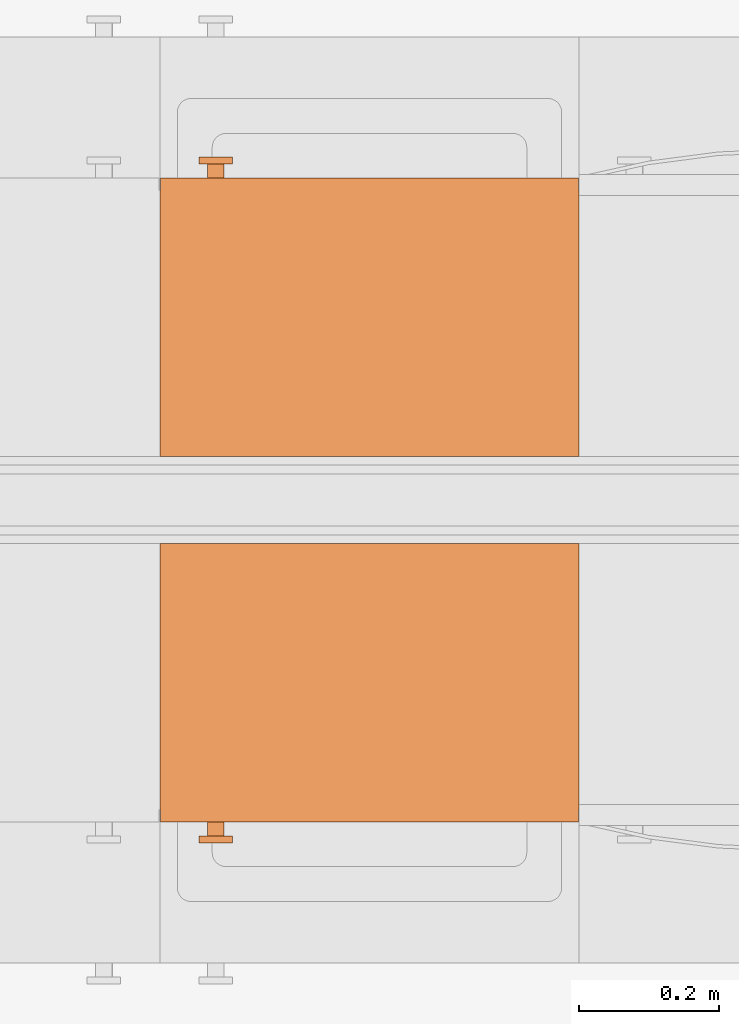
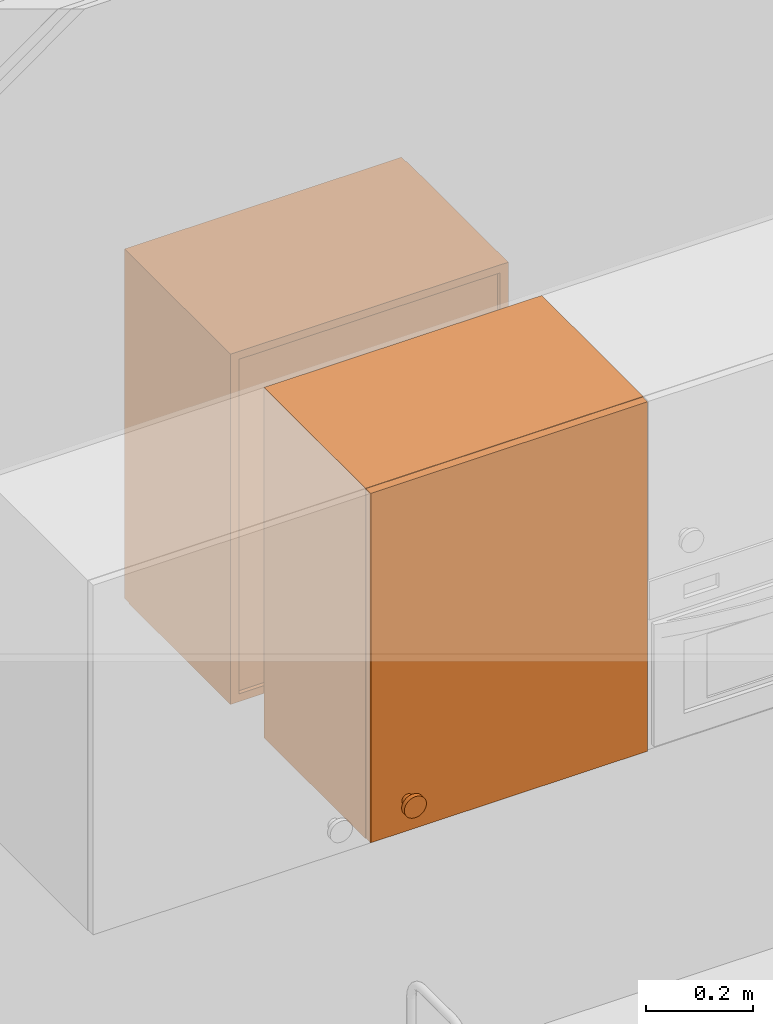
# One storey, part 129 of 165: 2 proxies.
"""IFC2X3 building model written with IfcOpenShell, lengths in millimetres."""

from ifc_helpers import new_model, entity, si_unit, converted_unit, derived_unit, money_unit, direction, frame, origin_with_axes, place, context, subcontext, project, spatial, faceted_brep, source, transform, mapped, type_object, type_shapes, element, save


model = new_model("IFC2X3")

# Units and contexts
model_context = context("Model", 3, precision=0.01, world=origin_with_axes(), true_north=direction((0.0, 1.0)))
body_context = subcontext(model_context, "Body", "Model", "MODEL_VIEW")
ifc_project = project(units=[si_unit("LENGTHUNIT", "METRE", prefix="MILLI"), si_unit("AREAUNIT", "SQUARE_METRE"), si_unit("VOLUMEUNIT", "CUBIC_METRE"), converted_unit("PLANEANGLEUNIT", "DEGREE", entity("IfcPlaneAngleMeasure", 0.0174532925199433), si_unit("PLANEANGLEUNIT", "RADIAN"), dimensions=[0, 0, 0, 0, 0, 0, 0]), money_unit("EUR"), converted_unit("TIMEUNIT", "Year", entity("IfcTimeMeasure", 31556926.0), si_unit("TIMEUNIT", "SECOND"), dimensions=[0, 0, 1, 0, 0, 0, 0]), si_unit("MASSUNIT", "GRAM", prefix="KILO"), si_unit("THERMODYNAMICTEMPERATUREUNIT", "DEGREE_CELSIUS"), si_unit("LUMINOUSINTENSITYUNIT", "LUMEN"), si_unit("ENERGYUNIT", "JOULE", prefix="MEGA"), derived_unit("THERMALCONDUCTANCEUNIT", [(si_unit("POWERUNIT", "WATT"), 1), (si_unit("LENGTHUNIT", "METRE"), -1), (si_unit("THERMODYNAMICTEMPERATUREUNIT", "KELVIN"), -1)]), derived_unit("SPECIFICHEATCAPACITYUNIT", [(si_unit("ENERGYUNIT", "JOULE"), 1), (si_unit("MASSUNIT", "GRAM", prefix="KILO"), -1), (si_unit("THERMODYNAMICTEMPERATUREUNIT", "KELVIN"), -1)]), derived_unit("MASSDENSITYUNIT", [(si_unit("MASSUNIT", "GRAM", prefix="KILO"), 1), (si_unit("VOLUMEUNIT", "CUBIC_METRE"), -1)])], contexts=[model_context])

# Site, building, storey
site_placement = place(None, origin_with_axes())
site = spatial("IfcSite", under=ifc_project, at=site_placement, Name="Site", CompositionType="ELEMENT")
building_placement = place(site_placement, origin_with_axes())
building = spatial("IfcBuilding", under=site, at=building_placement, Name="Naam gebouw", CompositionType="ELEMENT")
storey_placement = place(building_placement, origin_with_axes())
storey = spatial("IfcBuildingStorey", under=building, at=storey_placement, Name="Begane grond", CompositionType="ELEMENT", Elevation=0.0)

# Proxies
building_element_proxy_type = type_object("IfcBuildingElementProxyType", Name="Bovenkast recht 26", PredefinedType="NOTDEFINED")
shared_shape_1 = source(origin_with_axes(), body_context, "Body", "Brep", [
    faceted_brep([(-18.0, -380.0, 1891.0), (-18.0, -380.0, 1909.0), (-582.0, -380.0, 1909.0), (-582.0, -380.0, 1891.0), (-18.0, -18.0, 1891.0), (-18.0, -18.0, 1909.0), (-582.0, -18.0, 1909.0), (-582.0, -18.0, 1891.0)], [[[0, 1, 2, 3]], [[4, 5, 1, 0]], [[1, 5, 6, 2]], [[3, 2, 6, 7]], [[0, 3, 7, 4]], [[7, 6, 5, 4]]]),
    faceted_brep([(-531.8176930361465, -398.0, 1570.916221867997), (-532.0, -398.0, 1573.0), (-531.8176930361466, -398.0, 1575.083778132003), (-531.2763114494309, -398.0, 1577.104241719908), (-530.3923048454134, -398.0, 1579.0), (-529.1925333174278, -398.0, 1580.713451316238), (-527.7134513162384, -398.0, 1582.192533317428), (-526.0, -398.0, 1583.392304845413), (-524.104241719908, -398.0, 1584.276311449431), (-522.0837781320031, -398.0, 1584.817693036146), (-520.0, -398.0, 1585.0), (-517.9162218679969, -398.0, 1584.817693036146), (-515.8957582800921, -398.0, 1584.276311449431), (-514.0, -398.0, 1583.392304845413), (-512.2865486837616, -398.0, 1582.192533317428), (-510.8074666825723, -398.0, 1580.713451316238), (-509.6076951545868, -398.0, 1579.0), (-508.7236885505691, -398.0, 1577.104241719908), (-508.1823069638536, -398.0, 1575.083778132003), (-508.0, -398.0, 1573.0), (-508.1823069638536, -398.0, 1570.916221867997), (-508.7236885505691, -398.0, 1568.895758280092), (-509.6076951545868, -398.0, 1567.0), (-510.8074666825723, -398.0, 1565.286548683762), (-512.2865486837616, -398.0, 1563.807466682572), (-514.0, -398.0, 1562.607695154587), (-515.8957582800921, -398.0, 1561.723688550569), (-517.9162218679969, -398.0, 1561.182306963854), (-520.0, -398.0, 1561.0), (-522.0837781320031, -398.0, 1561.182306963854), (-524.104241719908, -398.0, 1561.723688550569), (-526.0, -398.0, 1562.607695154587), (-527.7134513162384, -398.0, 1563.807466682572), (-529.1925333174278, -398.0, 1565.286548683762), (-530.3923048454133, -398.0, 1567.0), (-531.2763114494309, -398.0, 1568.895758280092), (-531.8176930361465, -418.0000000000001, 1570.916221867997), (-532.0, -418.0000000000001, 1573.0), (-531.8176930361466, -418.0000000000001, 1575.083778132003), (-531.2763114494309, -418.0000000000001, 1577.104241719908), (-530.3923048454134, -418.0000000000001, 1579.0), (-529.1925333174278, -418.0000000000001, 1580.713451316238), (-527.7134513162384, -418.0000000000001, 1582.192533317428), (-526.0, -418.0000000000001, 1583.392304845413), (-524.104241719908, -418.0000000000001, 1584.276311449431), (-522.0837781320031, -418.0000000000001, 1584.817693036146), (-520.0, -418.0000000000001, 1585.0), (-517.9162218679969, -418.0000000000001, 1584.817693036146), (-515.8957582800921, -418.0000000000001, 1584.276311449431), (-514.0, -418.0000000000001, 1583.392304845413), (-512.2865486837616, -418.0000000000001, 1582.192533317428), (-510.8074666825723, -418.0000000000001, 1580.713451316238), (-509.6076951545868, -418.0000000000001, 1579.0), (-508.7236885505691, -418.0000000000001, 1577.104241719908), (-508.1823069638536, -418.0000000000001, 1575.083778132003), (-508.0, -418.0000000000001, 1573.0), (-508.1823069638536, -418.0000000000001, 1570.916221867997), (-508.7236885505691, -418.0000000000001, 1568.895758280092), (-509.6076951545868, -418.0000000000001, 1567.0), (-510.8074666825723, -418.0000000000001, 1565.286548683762), (-512.2865486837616, -418.0000000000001, 1563.807466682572), (-514.0, -418.0000000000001, 1562.607695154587), (-515.8957582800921, -418.0000000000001, 1561.723688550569), (-517.9162218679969, -418.0000000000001, 1561.182306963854), (-520.0, -418.0000000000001, 1561.0), (-522.0837781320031, -418.0000000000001, 1561.182306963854), (-524.104241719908, -418.0000000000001, 1561.723688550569), (-526.0, -418.0000000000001, 1562.607695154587), (-527.7134513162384, -418.0000000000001, 1563.807466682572), (-529.1925333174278, -418.0000000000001, 1565.286548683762), (-530.3923048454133, -418.0000000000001, 1567.0), (-531.2763114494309, -418.0000000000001, 1568.895758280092)], [[[0, 1, 2, 3, 4, 5, 6, 7, 8, 9, 10, 11, 12, 13, 14, 15, 16, 17, 18, 19, 20, 21, 22, 23, 24, 25, 26, 27, 28, 29, 30, 31, 32, 33, 34, 35]], [[0, 36, 37, 1]], [[1, 37, 38, 2]], [[2, 38, 39, 3]], [[3, 39, 40, 4]], [[4, 40, 41, 5]], [[5, 41, 42, 6]], [[6, 42, 43, 7]], [[7, 43, 44, 8]], [[8, 44, 45, 9]], [[9, 45, 46, 10]], [[10, 46, 47, 11]], [[11, 47, 48, 12]], [[12, 48, 49, 13]], [[13, 49, 50, 14]], [[14, 50, 51, 15]], [[15, 51, 52, 16]], [[16, 52, 53, 17]], [[17, 53, 54, 18]], [[18, 54, 55, 19]], [[19, 55, 56, 20]], [[20, 56, 57, 21]], [[21, 57, 58, 22]], [[22, 58, 59, 23]], [[23, 59, 60, 24]], [[24, 60, 61, 25]], [[25, 61, 62, 26]], [[26, 62, 63, 27]], [[27, 63, 64, 28]], [[28, 64, 65, 29]], [[29, 65, 66, 30]], [[30, 66, 67, 31]], [[31, 67, 68, 32]], [[32, 68, 69, 33]], [[33, 69, 70, 34]], [[34, 70, 71, 35]], [[35, 71, 36, 0]], [[36, 71, 70, 69, 68, 67, 66, 65, 64, 63, 62, 61, 60, 59, 58, 57, 56, 55, 54, 53, 52, 51, 50, 49, 48, 47, 46, 45, 44, 43, 42, 41, 40, 39, 38, 37]]]),
    faceted_brep([(-543.635386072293, -418.0000000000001, 1568.832443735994), (-544.0, -418.0000000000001, 1573.0), (-543.635386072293, -418.0000000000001, 1577.167556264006), (-542.5526228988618, -418.0000000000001, 1581.208483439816), (-540.7846096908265, -418.0000000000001, 1585.0), (-538.3850666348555, -418.0000000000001, 1588.426902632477), (-535.426902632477, -418.0000000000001, 1591.385066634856), (-532.0, -418.0000000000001, 1593.784609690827), (-528.2084834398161, -418.0000000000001, 1595.552622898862), (-524.1675562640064, -418.0000000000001, 1596.635386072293), (-520.0, -418.0000000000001, 1597.0), (-515.8324437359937, -418.0000000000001, 1596.635386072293), (-511.7915165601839, -418.0000000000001, 1595.552622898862), (-508.0, -418.0000000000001, 1593.784609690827), (-504.5730973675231, -418.0000000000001, 1591.385066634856), (-501.6149333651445, -418.0000000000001, 1588.426902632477), (-499.2153903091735, -418.0000000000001, 1585.0), (-497.4473771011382, -418.0000000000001, 1581.208483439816), (-496.364613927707, -418.0000000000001, 1577.167556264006), (-496.0000000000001, -418.0000000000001, 1573.0), (-496.364613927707, -418.0000000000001, 1568.832443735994), (-497.4473771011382, -418.0000000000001, 1564.791516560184), (-499.2153903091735, -418.0000000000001, 1561.0), (-501.6149333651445, -418.0000000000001, 1557.573097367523), (-504.5730973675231, -418.0000000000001, 1554.614933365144), (-508.0, -418.0000000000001, 1552.215390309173), (-511.7915165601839, -418.0000000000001, 1550.447377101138), (-515.8324437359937, -418.0000000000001, 1549.364613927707), (-520.0, -418.0000000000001, 1549.0), (-524.1675562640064, -418.0000000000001, 1549.364613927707), (-528.2084834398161, -418.0000000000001, 1550.447377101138), (-532.0, -418.0000000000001, 1552.215390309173), (-535.426902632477, -418.0000000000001, 1554.614933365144), (-538.3850666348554, -418.0000000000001, 1557.573097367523), (-540.7846096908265, -418.0000000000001, 1561.0), (-542.5526228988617, -418.0000000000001, 1564.791516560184), (-543.635386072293, -428.0000000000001, 1568.832443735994), (-544.0, -428.0000000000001, 1573.0), (-543.635386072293, -428.0000000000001, 1577.167556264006), (-542.5526228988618, -428.0000000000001, 1581.208483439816), (-540.7846096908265, -428.0000000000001, 1585.0), (-538.3850666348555, -428.0000000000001, 1588.426902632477), (-535.426902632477, -428.0000000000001, 1591.385066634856), (-532.0, -428.0000000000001, 1593.784609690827), (-528.2084834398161, -428.0000000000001, 1595.552622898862), (-524.1675562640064, -428.0000000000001, 1596.635386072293), (-520.0, -428.0000000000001, 1597.0), (-515.8324437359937, -428.0000000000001, 1596.635386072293), (-511.7915165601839, -428.0000000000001, 1595.552622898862), (-508.0, -428.0000000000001, 1593.784609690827), (-504.5730973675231, -428.0000000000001, 1591.385066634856), (-501.6149333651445, -428.0000000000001, 1588.426902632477), (-499.2153903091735, -428.0000000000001, 1585.0), (-497.4473771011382, -428.0000000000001, 1581.208483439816), (-496.364613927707, -428.0000000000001, 1577.167556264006), (-496.0000000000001, -428.0000000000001, 1573.0), (-496.364613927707, -428.0000000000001, 1568.832443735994), (-497.4473771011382, -428.0000000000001, 1564.791516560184), (-499.2153903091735, -428.0000000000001, 1561.0), (-501.6149333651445, -428.0000000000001, 1557.573097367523), (-504.5730973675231, -428.0000000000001, 1554.614933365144), (-508.0, -428.0000000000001, 1552.215390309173), (-511.7915165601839, -428.0000000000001, 1550.447377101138), (-515.8324437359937, -428.0000000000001, 1549.364613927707), (-520.0, -428.0000000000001, 1549.0), (-524.1675562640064, -428.0000000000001, 1549.364613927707), (-528.2084834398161, -428.0000000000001, 1550.447377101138), (-532.0, -428.0000000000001, 1552.215390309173), (-535.426902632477, -428.0000000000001, 1554.614933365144), (-538.3850666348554, -428.0000000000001, 1557.573097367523), (-540.7846096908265, -428.0000000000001, 1561.0), (-542.5526228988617, -428.0000000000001, 1564.791516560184)], [[[0, 1, 2, 3, 4, 5, 6, 7, 8, 9, 10, 11, 12, 13, 14, 15, 16, 17, 18, 19, 20, 21, 22, 23, 24, 25, 26, 27, 28, 29, 30, 31, 32, 33, 34, 35]], [[0, 36, 37, 1]], [[1, 37, 38, 2]], [[2, 38, 39, 3]], [[3, 39, 40, 4]], [[4, 40, 41, 5]], [[5, 41, 42, 6]], [[6, 42, 43, 7]], [[7, 43, 44, 8]], [[8, 44, 45, 9]], [[9, 45, 46, 10]], [[10, 46, 47, 11]], [[11, 47, 48, 12]], [[12, 48, 49, 13]], [[13, 49, 50, 14]], [[14, 50, 51, 15]], [[15, 51, 52, 16]], [[16, 52, 53, 17]], [[17, 53, 54, 18]], [[18, 54, 55, 19]], [[19, 55, 56, 20]], [[20, 56, 57, 21]], [[21, 57, 58, 22]], [[22, 58, 59, 23]], [[23, 59, 60, 24]], [[24, 60, 61, 25]], [[25, 61, 62, 26]], [[26, 62, 63, 27]], [[27, 63, 64, 28]], [[28, 64, 65, 29]], [[29, 65, 66, 30]], [[30, 66, 67, 31]], [[31, 67, 68, 32]], [[32, 68, 69, 33]], [[33, 69, 70, 34]], [[34, 70, 71, 35]], [[35, 71, 36, 0]], [[36, 71, 70, 69, 68, 67, 66, 65, 64, 63, 62, 61, 60, 59, 58, 57, 56, 55, 54, 53, 52, 51, 50, 49, 48, 47, 46, 45, 44, 43, 42, 41, 40, 39, 38, 37]]]),
    faceted_brep([(-1.0, -380.0, 1501.0), (-1.0, -398.0, 1501.0), (-599.0, -398.0, 1501.0), (-599.0, -380.0, 1501.0), (-1.0, -379.9999999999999, 2299.0), (-1.0, -397.9999999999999, 2299.0), (-599.0, -397.9999999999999, 2299.0), (-599.0, -379.9999999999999, 2299.0)], [[[0, 1, 2, 3]], [[4, 5, 1, 0]], [[1, 5, 6, 2]], [[3, 2, 6, 7]], [[0, 3, 7, 4]], [[7, 6, 5, 4]]]),
    faceted_brep([(-18.0, -380.0, 1500.0), (-18.0, -380.0, 1518.0), (-582.0, -380.0, 1518.0), (-582.0, -380.0, 1500.0), (-18.0, 0.0, 1500.0), (-18.0, 0.0, 1518.0), (-582.0, 0.0, 1518.0), (-582.0, 0.0, 1500.0)], [[[0, 1, 2, 3]], [[4, 5, 1, 0]], [[1, 5, 6, 2]], [[3, 2, 6, 7]], [[0, 3, 7, 4]], [[7, 6, 5, 4]]]),
    faceted_brep([(-18.0, -380.0, 2282.0), (-18.0, -380.0, 2300.0), (-582.0, -380.0, 2300.0), (-582.0, -380.0, 2282.0), (-18.0, 0.0, 2282.0), (-18.0, 0.0, 2300.0), (-582.0, 0.0, 2300.0), (-582.0, 0.0, 2282.0)], [[[0, 1, 2, 3]], [[4, 5, 1, 0]], [[1, 5, 6, 2]], [[3, 2, 6, 7]], [[0, 3, 7, 4]], [[7, 6, 5, 4]]]),
    faceted_brep([(0.0, 0.0, 1500.0), (0.0, 0.0, 2300.0), (0.0, -380.0, 2300.0), (0.0, -380.0, 1500.0), (-18.0, 0.0, 1500.0), (-18.0, 0.0, 2300.0), (-18.0, -380.0, 2300.0), (-18.0, -380.0, 1500.0)], [[[0, 1, 2, 3]], [[4, 5, 1, 0]], [[1, 5, 6, 2]], [[3, 2, 6, 7]], [[0, 3, 7, 4]], [[7, 6, 5, 4]]]),
    faceted_brep([(-600.0, -380.0, 1500.0), (-600.0, -380.0, 2300.0), (-600.0, 0.0, 2300.0), (-600.0, 0.0, 1500.0), (-582.0, -380.0, 1500.0), (-582.0, -380.0, 2300.0), (-582.0, 0.0, 2300.0), (-582.0, 0.0, 1500.0)], [[[0, 1, 2, 3]], [[4, 5, 1, 0]], [[1, 5, 6, 2]], [[3, 2, 6, 7]], [[0, 3, 7, 4]], [[7, 6, 5, 4]]]),
    faceted_brep([(-582.0, -9.0, 1518.0), (-582.0, -9.0, 2282.0), (-18.00000000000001, -9.0, 2282.0), (-18.00000000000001, -9.0, 1518.0), (-582.0, -18.0, 1518.0), (-582.0, -18.0, 2282.0), (-18.00000000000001, -18.0, 2282.0), (-18.00000000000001, -18.0, 1518.0)], [[[0, 1, 2, 3]], [[4, 5, 1, 0]], [[1, 5, 6, 2]], [[3, 2, 6, 7]], [[0, 3, 7, 4]], [[7, 6, 5, 4]]]),
])
proxy_1_placement = place(storey_placement, frame((2032.000000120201, 11307.51680037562, 300.0000000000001), z_axis=(0.0, 0.0, 1.0), x_axis=(0.9999999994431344, 3.337261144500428e-05, 0.0)))
element("IfcBuildingElementProxy", 1, at=proxy_1_placement, inside=storey, type_object=building_element_proxy_type, Name="_Leeg", context=body_context, shape_type="MappedRepresentation", body=[
    mapped(shared_shape_1, transform((0.0, 0.0, 0.0))),
])
shared_shape_2 = source(origin_with_axes(), body_context, "Body", "Brep", [
    faceted_brep([(18.0, -380.0, 1891.0), (582.0, -380.0, 1891.0), (582.0, -380.0, 1909.0), (18.0, -380.0, 1909.0), (18.0, -18.0, 1891.0), (582.0, -18.0, 1891.0), (582.0, -18.0, 1909.0), (18.0, -18.0, 1909.0)], [[[0, 1, 2, 3]], [[0, 4, 5, 1]], [[1, 5, 6, 2]], [[3, 2, 6, 7]], [[4, 0, 3, 7]], [[5, 4, 7, 6]]]),
    faceted_brep([(531.8176930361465, -398.0, 1570.916221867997), (531.2763114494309, -398.0, 1568.895758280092), (530.3923048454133, -398.0, 1567.0), (529.1925333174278, -398.0, 1565.286548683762), (527.7134513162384, -398.0, 1563.807466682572), (526.0, -398.0, 1562.607695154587), (524.104241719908, -398.0, 1561.723688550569), (522.0837781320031, -398.0, 1561.182306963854), (520.0, -398.0, 1561.0), (517.9162218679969, -398.0, 1561.182306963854), (515.8957582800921, -398.0, 1561.723688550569), (514.0, -398.0, 1562.607695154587), (512.2865486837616, -398.0, 1563.807466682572), (510.8074666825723, -398.0, 1565.286548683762), (509.6076951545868, -398.0, 1567.0), (508.7236885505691, -398.0, 1568.895758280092), (508.1823069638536, -398.0, 1570.916221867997), (508.0, -398.0, 1573.0), (508.1823069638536, -398.0, 1575.083778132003), (508.7236885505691, -398.0, 1577.104241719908), (509.6076951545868, -398.0, 1579.0), (510.8074666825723, -398.0, 1580.713451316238), (512.2865486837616, -398.0, 1582.192533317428), (514.0, -398.0, 1583.392304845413), (515.8957582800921, -398.0, 1584.276311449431), (517.9162218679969, -398.0, 1584.817693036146), (520.0, -398.0, 1585.0), (522.0837781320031, -398.0, 1584.817693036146), (524.104241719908, -398.0, 1584.276311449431), (526.0, -398.0, 1583.392304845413), (527.7134513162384, -398.0, 1582.192533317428), (529.1925333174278, -398.0, 1580.713451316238), (530.3923048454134, -398.0, 1579.0), (531.2763114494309, -398.0, 1577.104241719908), (531.8176930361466, -398.0, 1575.083778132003), (532.0, -398.0, 1573.0), (531.8176930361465, -418.0000000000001, 1570.916221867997), (531.2763114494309, -418.0000000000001, 1568.895758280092), (530.3923048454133, -418.0000000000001, 1567.0), (529.1925333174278, -418.0000000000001, 1565.286548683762), (527.7134513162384, -418.0000000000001, 1563.807466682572), (526.0, -418.0000000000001, 1562.607695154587), (524.104241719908, -418.0000000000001, 1561.723688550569), (522.0837781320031, -418.0000000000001, 1561.182306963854), (520.0, -418.0000000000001, 1561.0), (517.9162218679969, -418.0000000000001, 1561.182306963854), (515.8957582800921, -418.0000000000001, 1561.723688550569), (514.0, -418.0000000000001, 1562.607695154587), (512.2865486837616, -418.0000000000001, 1563.807466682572), (510.8074666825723, -418.0000000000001, 1565.286548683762), (509.6076951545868, -418.0000000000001, 1567.0), (508.7236885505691, -418.0000000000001, 1568.895758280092), (508.1823069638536, -418.0000000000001, 1570.916221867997), (508.0, -418.0000000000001, 1573.0), (508.1823069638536, -418.0000000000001, 1575.083778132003), (508.7236885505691, -418.0000000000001, 1577.104241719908), (509.6076951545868, -418.0000000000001, 1579.0), (510.8074666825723, -418.0000000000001, 1580.713451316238), (512.2865486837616, -418.0000000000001, 1582.192533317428), (514.0, -418.0000000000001, 1583.392304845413), (515.8957582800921, -418.0000000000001, 1584.276311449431), (517.9162218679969, -418.0000000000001, 1584.817693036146), (520.0, -418.0000000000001, 1585.0), (522.0837781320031, -418.0000000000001, 1584.817693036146), (524.104241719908, -418.0000000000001, 1584.276311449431), (526.0, -418.0000000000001, 1583.392304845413), (527.7134513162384, -418.0000000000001, 1582.192533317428), (529.1925333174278, -418.0000000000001, 1580.713451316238), (530.3923048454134, -418.0000000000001, 1579.0), (531.2763114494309, -418.0000000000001, 1577.104241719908), (531.8176930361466, -418.0000000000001, 1575.083778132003), (532.0, -418.0000000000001, 1573.0)], [[[0, 1, 2, 3, 4, 5, 6, 7, 8, 9, 10, 11, 12, 13, 14, 15, 16, 17, 18, 19, 20, 21, 22, 23, 24, 25, 26, 27, 28, 29, 30, 31, 32, 33, 34, 35]], [[1, 0, 36, 37]], [[2, 1, 37, 38]], [[3, 2, 38, 39]], [[4, 3, 39, 40]], [[5, 4, 40, 41]], [[6, 5, 41, 42]], [[7, 6, 42, 43]], [[8, 7, 43, 44]], [[9, 8, 44, 45]], [[10, 9, 45, 46]], [[11, 10, 46, 47]], [[12, 11, 47, 48]], [[13, 12, 48, 49]], [[14, 13, 49, 50]], [[15, 14, 50, 51]], [[16, 15, 51, 52]], [[17, 16, 52, 53]], [[18, 17, 53, 54]], [[19, 18, 54, 55]], [[20, 19, 55, 56]], [[21, 20, 56, 57]], [[22, 21, 57, 58]], [[23, 22, 58, 59]], [[24, 23, 59, 60]], [[25, 24, 60, 61]], [[26, 25, 61, 62]], [[27, 26, 62, 63]], [[28, 27, 63, 64]], [[29, 28, 64, 65]], [[30, 29, 65, 66]], [[31, 30, 66, 67]], [[32, 31, 67, 68]], [[33, 32, 68, 69]], [[34, 33, 69, 70]], [[35, 34, 70, 71]], [[0, 35, 71, 36]], [[36, 71, 70, 69, 68, 67, 66, 65, 64, 63, 62, 61, 60, 59, 58, 57, 56, 55, 54, 53, 52, 51, 50, 49, 48, 47, 46, 45, 44, 43, 42, 41, 40, 39, 38, 37]]]),
    faceted_brep([(543.635386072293, -418.0000000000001, 1568.832443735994), (542.5526228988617, -418.0000000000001, 1564.791516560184), (540.7846096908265, -418.0000000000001, 1561.0), (538.3850666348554, -418.0000000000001, 1557.573097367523), (535.426902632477, -418.0000000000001, 1554.614933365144), (532.0, -418.0000000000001, 1552.215390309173), (528.2084834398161, -418.0000000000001, 1550.447377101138), (524.1675562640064, -418.0000000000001, 1549.364613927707), (520.0, -418.0000000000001, 1549.0), (515.8324437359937, -418.0000000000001, 1549.364613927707), (511.7915165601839, -418.0000000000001, 1550.447377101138), (508.0, -418.0000000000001, 1552.215390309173), (504.5730973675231, -418.0000000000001, 1554.614933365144), (501.6149333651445, -418.0000000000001, 1557.573097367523), (499.2153903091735, -418.0000000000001, 1561.0), (497.4473771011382, -418.0000000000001, 1564.791516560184), (496.364613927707, -418.0000000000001, 1568.832443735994), (496.0000000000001, -418.0000000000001, 1573.0), (496.364613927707, -418.0000000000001, 1577.167556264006), (497.4473771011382, -418.0000000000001, 1581.208483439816), (499.2153903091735, -418.0000000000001, 1585.0), (501.6149333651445, -418.0000000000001, 1588.426902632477), (504.5730973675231, -418.0000000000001, 1591.385066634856), (508.0, -418.0000000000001, 1593.784609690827), (511.7915165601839, -418.0000000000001, 1595.552622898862), (515.8324437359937, -418.0000000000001, 1596.635386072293), (520.0, -418.0000000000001, 1597.0), (524.1675562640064, -418.0000000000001, 1596.635386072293), (528.2084834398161, -418.0000000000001, 1595.552622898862), (532.0, -418.0000000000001, 1593.784609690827), (535.426902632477, -418.0000000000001, 1591.385066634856), (538.3850666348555, -418.0000000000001, 1588.426902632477), (540.7846096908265, -418.0000000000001, 1585.0), (542.5526228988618, -418.0000000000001, 1581.208483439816), (543.635386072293, -418.0000000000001, 1577.167556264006), (544.0, -418.0000000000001, 1573.0), (543.635386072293, -428.0000000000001, 1568.832443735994), (542.5526228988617, -428.0000000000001, 1564.791516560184), (540.7846096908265, -428.0000000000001, 1561.0), (538.3850666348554, -428.0000000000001, 1557.573097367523), (535.426902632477, -428.0000000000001, 1554.614933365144), (532.0, -428.0000000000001, 1552.215390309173), (528.2084834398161, -428.0000000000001, 1550.447377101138), (524.1675562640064, -428.0000000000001, 1549.364613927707), (520.0, -428.0000000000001, 1549.0), (515.8324437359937, -428.0000000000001, 1549.364613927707), (511.7915165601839, -428.0000000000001, 1550.447377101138), (508.0, -428.0000000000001, 1552.215390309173), (504.5730973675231, -428.0000000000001, 1554.614933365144), (501.6149333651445, -428.0000000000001, 1557.573097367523), (499.2153903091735, -428.0000000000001, 1561.0), (497.4473771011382, -428.0000000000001, 1564.791516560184), (496.364613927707, -428.0000000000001, 1568.832443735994), (496.0000000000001, -428.0000000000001, 1573.0), (496.364613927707, -428.0000000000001, 1577.167556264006), (497.4473771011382, -428.0000000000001, 1581.208483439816), (499.2153903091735, -428.0000000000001, 1585.0), (501.6149333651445, -428.0000000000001, 1588.426902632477), (504.5730973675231, -428.0000000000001, 1591.385066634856), (508.0, -428.0000000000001, 1593.784609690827), (511.7915165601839, -428.0000000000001, 1595.552622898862), (515.8324437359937, -428.0000000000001, 1596.635386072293), (520.0, -428.0000000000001, 1597.0), (524.1675562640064, -428.0000000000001, 1596.635386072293), (528.2084834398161, -428.0000000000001, 1595.552622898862), (532.0, -428.0000000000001, 1593.784609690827), (535.426902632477, -428.0000000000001, 1591.385066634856), (538.3850666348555, -428.0000000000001, 1588.426902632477), (540.7846096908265, -428.0000000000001, 1585.0), (542.5526228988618, -428.0000000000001, 1581.208483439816), (543.635386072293, -428.0000000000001, 1577.167556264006), (544.0, -428.0000000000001, 1573.0)], [[[0, 1, 2, 3, 4, 5, 6, 7, 8, 9, 10, 11, 12, 13, 14, 15, 16, 17, 18, 19, 20, 21, 22, 23, 24, 25, 26, 27, 28, 29, 30, 31, 32, 33, 34, 35]], [[1, 0, 36, 37]], [[2, 1, 37, 38]], [[3, 2, 38, 39]], [[4, 3, 39, 40]], [[5, 4, 40, 41]], [[6, 5, 41, 42]], [[7, 6, 42, 43]], [[8, 7, 43, 44]], [[9, 8, 44, 45]], [[10, 9, 45, 46]], [[11, 10, 46, 47]], [[12, 11, 47, 48]], [[13, 12, 48, 49]], [[14, 13, 49, 50]], [[15, 14, 50, 51]], [[16, 15, 51, 52]], [[17, 16, 52, 53]], [[18, 17, 53, 54]], [[19, 18, 54, 55]], [[20, 19, 55, 56]], [[21, 20, 56, 57]], [[22, 21, 57, 58]], [[23, 22, 58, 59]], [[24, 23, 59, 60]], [[25, 24, 60, 61]], [[26, 25, 61, 62]], [[27, 26, 62, 63]], [[28, 27, 63, 64]], [[29, 28, 64, 65]], [[30, 29, 65, 66]], [[31, 30, 66, 67]], [[32, 31, 67, 68]], [[33, 32, 68, 69]], [[34, 33, 69, 70]], [[35, 34, 70, 71]], [[0, 35, 71, 36]], [[36, 71, 70, 69, 68, 67, 66, 65, 64, 63, 62, 61, 60, 59, 58, 57, 56, 55, 54, 53, 52, 51, 50, 49, 48, 47, 46, 45, 44, 43, 42, 41, 40, 39, 38, 37]]]),
    faceted_brep([(1.0, -380.0, 1501.0), (599.0, -380.0, 1501.0), (599.0, -398.0, 1501.0), (1.0, -398.0, 1501.0), (1.0, -379.9999999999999, 2299.0), (599.0, -379.9999999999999, 2299.0), (599.0, -397.9999999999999, 2299.0), (1.0, -397.9999999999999, 2299.0)], [[[0, 1, 2, 3]], [[0, 4, 5, 1]], [[1, 5, 6, 2]], [[3, 2, 6, 7]], [[4, 0, 3, 7]], [[5, 4, 7, 6]]]),
    faceted_brep([(18.0, -380.0, 1500.0), (582.0, -380.0, 1500.0), (582.0, -380.0, 1518.0), (18.0, -380.0, 1518.0), (18.0, 0.0, 1500.0), (582.0, 0.0, 1500.0), (582.0, 0.0, 1518.0), (18.0, 0.0, 1518.0)], [[[0, 1, 2, 3]], [[0, 4, 5, 1]], [[1, 5, 6, 2]], [[3, 2, 6, 7]], [[4, 0, 3, 7]], [[5, 4, 7, 6]]]),
    faceted_brep([(18.0, -380.0, 2282.0), (582.0, -380.0, 2282.0), (582.0, -380.0, 2300.0), (18.0, -380.0, 2300.0), (18.0, 0.0, 2282.0), (582.0, 0.0, 2282.0), (582.0, 0.0, 2300.0), (18.0, 0.0, 2300.0)], [[[0, 1, 2, 3]], [[0, 4, 5, 1]], [[1, 5, 6, 2]], [[3, 2, 6, 7]], [[4, 0, 3, 7]], [[5, 4, 7, 6]]]),
    faceted_brep([(0.0, 0.0, 1500.0), (0.0, -380.0, 1500.0), (0.0, -380.0, 2300.0), (0.0, 0.0, 2300.0), (18.0, 0.0, 1500.0), (18.0, -380.0, 1500.0), (18.0, -380.0, 2300.0), (18.0, 0.0, 2300.0)], [[[0, 1, 2, 3]], [[0, 4, 5, 1]], [[1, 5, 6, 2]], [[3, 2, 6, 7]], [[4, 0, 3, 7]], [[5, 4, 7, 6]]]),
    faceted_brep([(600.0, -380.0, 1500.0), (600.0, 0.0, 1500.0), (600.0, 0.0, 2300.0), (600.0, -380.0, 2300.0), (582.0, -380.0, 1500.0), (582.0, 0.0, 1500.0), (582.0, 0.0, 2300.0), (582.0, -380.0, 2300.0)], [[[0, 1, 2, 3]], [[0, 4, 5, 1]], [[1, 5, 6, 2]], [[3, 2, 6, 7]], [[4, 0, 3, 7]], [[5, 4, 7, 6]]]),
    faceted_brep([(582.0, -9.0, 1518.0), (18.00000000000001, -9.0, 1518.0), (18.00000000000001, -9.0, 2282.0), (582.0, -9.0, 2282.0), (582.0, -18.0, 1518.0), (18.00000000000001, -18.0, 1518.0), (18.00000000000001, -18.0, 2282.0), (582.0, -18.0, 2282.0)], [[[0, 1, 2, 3]], [[0, 4, 5, 1]], [[1, 5, 6, 2]], [[3, 2, 6, 7]], [[4, 0, 3, 7]], [[5, 4, 7, 6]]]),
])
type_shapes(building_element_proxy_type, [shared_shape_1, shared_shape_2])
proxy_2_placement = place(storey_placement, frame((2032.000000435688, 11432.53028226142, 300.0000000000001), z_axis=(0.0, 0.0, 1.0), x_axis=(-0.9999999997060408, -2.424703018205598e-05, 0.0)))
element("IfcBuildingElementProxy", 2, at=proxy_2_placement, inside=storey, type_object=building_element_proxy_type, Name="_Leeg", context=body_context, shape_type="MappedRepresentation", body=[
    mapped(shared_shape_2, transform((0.0, 0.0, 0.0))),
])

save(model, "model.ifc")
